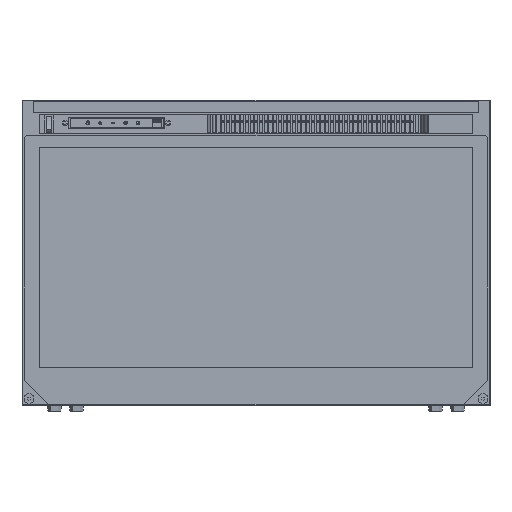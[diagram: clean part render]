
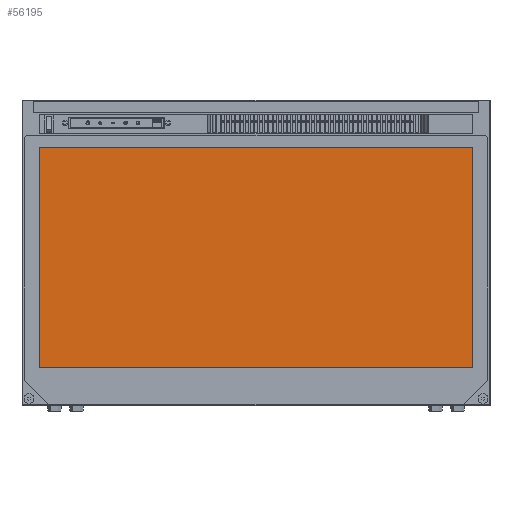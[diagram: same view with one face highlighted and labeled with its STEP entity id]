
A CAD part, top view. The second image highlights one B-rep face of the part: STEP entity #56195.
In plain terms, the highlighted planar face has unit normal (0, 0, 1).
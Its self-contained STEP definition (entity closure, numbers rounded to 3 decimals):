
#10952=DIRECTION('',(1.,0.,0.));
#10953=VECTOR('',#10952,688.);
#10954=CARTESIAN_POINT('',(-344.,408.3,147.791));
#10955=LINE('',#10954,#10953);
#10960=DIRECTION('',(0.,-1.,0.));
#10961=VECTOR('',#10960,350.);
#10962=CARTESIAN_POINT('',(344.,408.3,147.791));
#10963=LINE('',#10962,#10961);
#10972=DIRECTION('',(-1.,0.,0.));
#10973=VECTOR('',#10972,688.);
#10974=CARTESIAN_POINT('',(344.,58.3,147.791));
#10975=LINE('',#10974,#10973);
#10984=DIRECTION('',(0.,1.,0.));
#10985=VECTOR('',#10984,350.);
#10986=CARTESIAN_POINT('',(-344.,58.3,147.791));
#10987=LINE('',#10986,#10985);
#38665=CARTESIAN_POINT('',(-344.,408.3,147.791));
#38666=CARTESIAN_POINT('',(344.,408.3,147.791));
#38667=VERTEX_POINT('',#38665);
#38668=VERTEX_POINT('',#38666);
#38669=CARTESIAN_POINT('',(344.,58.3,147.791));
#38670=VERTEX_POINT('',#38669);
#38671=CARTESIAN_POINT('',(-344.,58.3,147.791));
#38672=VERTEX_POINT('',#38671);
#56181=CARTESIAN_POINT('',(0.,212.8,147.791));
#56182=DIRECTION('',(0.,0.,1.));
#56183=DIRECTION('',(1.,0.,0.));
#56184=AXIS2_PLACEMENT_3D('',#56181,#56182,#56183);
#56185=PLANE('',#56184);
#56186=ORIENTED_EDGE('',*,*,#56171,.T.);
#56188=ORIENTED_EDGE('',*,*,#56187,.T.);
#56190=ORIENTED_EDGE('',*,*,#56189,.T.);
#56192=ORIENTED_EDGE('',*,*,#56191,.T.);
#56193=EDGE_LOOP('',(#56186,#56188,#56190,#56192));
#56194=FACE_OUTER_BOUND('',#56193,.F.);
#56195=ADVANCED_FACE('',(#56194),#56185,.T.);
#56171=EDGE_CURVE('',#38667,#38668,#10955,.T.);
#56187=EDGE_CURVE('',#38668,#38670,#10963,.T.);
#56189=EDGE_CURVE('',#38670,#38672,#10975,.T.);
#56191=EDGE_CURVE('',#38672,#38667,#10987,.T.);
